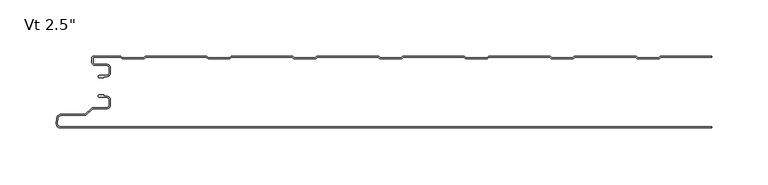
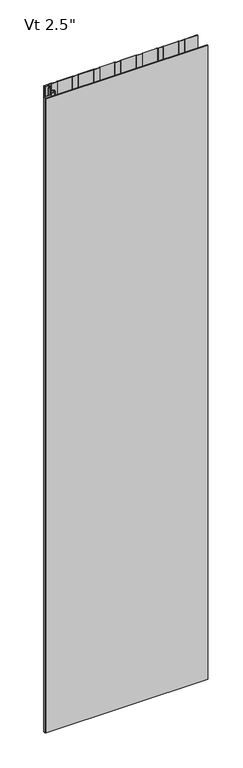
"""IFC4 building model written with IfcOpenShell, lengths in millimetres: plate geometry."""

from ifc_helpers import new_model, si_unit, point, frame, frame_2d, origin, origin_with_axes, place, context, project, spatial, polyline, circle_curve, trimmed, segment, composite_curve, outline, extrude, source, transform, mapped, element, save
from ifc_brep_helpers import plane_surface, cylinder_surface, revolved_surface, advanced_brep


def plate_b4da4b96(model_context):
    return source(origin(), model_context, "Body", "SolidModel", [
        advanced_brep(
        [(-270.768691, -17.0015159, 2400.0), (-271.7686883, -18.0015191, 2400.0), (-270.768691, -19.0015105, 2400.0), (-266.7684874, -19.0015105, 2400.0), (-266.7684874, -18.0015159, 2400.0), (-264.0762776, -18.0015159, 2400.0), (-260.7762819, -14.7015202, 2400.0), (-260.7762819, -10.301529, 2400.0), (-264.0762774, -7.0015335, 2400.0), (-274.4962563, -7.0015335, 2400.0), (-276.2662505, -5.2315393, 2400.0), (-276.2662505, -0.9999916, 2400.0), (-251.7659738, -0.9999916, 2400.0), (-250.3803312, -2.2002307, 2400.0), (-231.0051649, -2.2002307, 2400.0), (-229.619532, -1.0, 2400.0), (-175.5661166, -1.0, 2400.0), (-174.1804836, -2.2002307, 2400.0), (-154.8053173, -2.2002307, 2400.0), (-153.4196844, -1.0, 2400.0), (-99.366269, -1.0, 2400.0), (-97.980636, -2.2002307, 2400.0), (-78.6054697, -2.2002307, 2400.0), (-77.2198368, -1.0, 2400.0), (-23.1664214, -1.0, 2400.0), (-21.7807884, -2.2002307, 2400.0), (-2.4056221, -2.2002307, 2400.0), (-1.0199892, -1.0, 2400.0), (53.0334262, -1.0, 2400.0), (54.4190592, -2.2002307, 2400.0), (73.7942255, -2.2002307, 2400.0), (75.1798584, -1.0, 2400.0), (129.2332738, -1.0, 2400.0), (130.6189068, -2.2002307, 2400.0), (149.9940731, -2.2002307, 2400.0), (151.379706, -1.0, 2400.0), (205.4331214, -1.0, 2400.0), (206.8187544, -2.2002307, 2400.0), (226.1939207, -2.2002307, 2400.0), (227.5795536, -1.0, 2400.0), (272.7999998, -1.0, 2400.0), (272.7999998, 0.0, 2400.0), (227.7287048, 0.0, 2400.0), (226.8120879, -0.3417885, 2400.0), (225.8210403, -1.2002307, 2400.0), (207.1916348, -1.2002307, 2400.0), (206.2005872, -0.3417885, 2400.0), (205.2839703, 0.0, 2400.0), (151.5288572, 0.0, 2400.0), (150.6122403, -0.3417885, 2400.0), (149.6211927, -1.2002307, 2400.0), (130.9917872, -1.2002307, 2400.0), (130.0007396, -0.3417885, 2400.0), (129.0841227, 0.0, 2400.0), (75.3290096, 0.0, 2400.0), (74.4123927, -0.3417885, 2400.0), (73.4213451, -1.2002307, 2400.0), (54.7919396, -1.2002307, 2400.0), (53.800892, -0.3417885, 2400.0), (52.8842751, 0.0, 2400.0), (-0.870838, 0.0, 2400.0), (-1.7874549, -0.3417885, 2400.0), (-2.7785025, -1.2002307, 2400.0), (-21.407908, -1.2002307, 2400.0), (-22.3989556, -0.3417885, 2400.0), (-23.3155725, 0.0, 2400.0), (-77.0706856, 0.0, 2400.0), (-77.9873025, -0.3417885, 2400.0), (-78.9783501, -1.2002307, 2400.0), (-97.6077556, -1.2002307, 2400.0), (-98.5988032, -0.3417885, 2400.0), (-99.5154201, 0.0, 2400.0), (-153.2705332, 0.0, 2400.0), (-154.1871501, -0.3417885, 2400.0), (-155.1781977, -1.2002307, 2400.0), (-173.8076032, -1.2002307, 2400.0), (-174.7986508, -0.3417885, 2400.0), (-175.7152677, 0.0, 2400.0), (-229.4703808, 0.0, 2400.0), (-230.3869977, -0.3417885, 2400.0), (-231.3780453, -1.2002307, 2400.0), (-250.0074508, -1.2002307, 2400.0), (-250.9984984, -0.3417885, 2400.0), (-251.9152067, 0.0, 2400.0), (-275.8662543, 8.4e-06, 2400.0), (-277.2662505, -1.3999878, 2400.0), (-277.2662505, -5.2315393, 2400.0), (-274.4962563, -8.0015335, 2400.0), (-264.0762774, -8.0015335, 2400.0), (-261.7762819, -10.301529, 2400.0), (-261.7762819, -14.7015202, 2400.0), (-264.0762776, -17.0015159, 2400.0), (-270.768691, -17.0015159, 0.0), (-264.0762776, -17.0015159, 0.0), (-261.7762819, -14.7015202, 0.0), (-261.7762819, -10.301529, 0.0), (-264.0762774, -8.0015335, 0.0), (-274.4962563, -8.0015335, 0.0), (-277.2662505, -5.2315393, 0.0), (-277.2662505, -1.3999878, 0.0), (-275.8662543, 8.4e-06, 0.0), (-251.9151153, 8.4e-06, 0.0), (-250.9984984, -0.3417885, 0.0), (-250.0074508, -1.2002307, 0.0), (-231.3780453, -1.2002307, 0.0), (-230.3869977, -0.3417885, 0.0), (-229.4703808, 0.0, 0.0), (-175.7152677, 0.0, 0.0), (-174.7986508, -0.3417885, 0.0), (-173.8076032, -1.2002307, 0.0), (-155.1781977, -1.2002307, 0.0), (-154.1871501, -0.3417885, 0.0), (-153.2705332, 0.0, 0.0), (-99.5154201, 0.0, 0.0), (-98.5988032, -0.3417885, 0.0), (-97.6077556, -1.2002307, 0.0), (-78.9783501, -1.2002307, 0.0), (-77.9873025, -0.3417885, 0.0), (-77.0706856, 0.0, 0.0), (-23.3155725, 0.0, 0.0), (-22.3989556, -0.3417885, 0.0), (-21.407908, -1.2002307, 0.0), (-2.7785025, -1.2002307, 0.0), (-1.7874549, -0.3417885, 0.0), (-0.870838, 0.0, 0.0), (52.8842751, 0.0, 0.0), (53.800892, -0.3417885, 0.0), (54.7919396, -1.2002307, 0.0), (73.4213451, -1.2002307, 0.0), (74.4123927, -0.3417885, 0.0), (75.3290096, 0.0, 0.0), (129.0841227, 0.0, 0.0), (130.0007396, -0.3417885, 0.0), (130.9917872, -1.2002307, 0.0), (149.6211927, -1.2002307, 0.0), (150.6122403, -0.3417885, 0.0), (151.5288572, 0.0, 0.0), (205.2839703, 0.0, 0.0), (206.2005872, -0.3417885, 0.0), (207.1916348, -1.2002307, 0.0), (225.8210403, -1.2002307, 0.0), (226.8120879, -0.3417885, 0.0), (227.7287048, 0.0, 0.0), (272.7999998, 0.0, 0.0), (272.7999998, -1.0, 0.0), (227.5795536, -1.0, 0.0), (226.1939207, -2.2002307, 0.0), (206.8187544, -2.2002307, 0.0), (205.4331214, -1.0, 0.0), (151.379706, -1.0, 0.0), (149.9940731, -2.2002307, 0.0), (130.6189068, -2.2002307, 0.0), (129.2332738, -1.0, 0.0), (75.1798584, -1.0, 0.0), (73.7942255, -2.2002307, 0.0), (54.4190592, -2.2002307, 0.0), (53.0334262, -1.0, 0.0), (-1.0199892, -1.0, 0.0), (-2.4056221, -2.2002307, 0.0), (-21.7807884, -2.2002307, 0.0), (-23.1664214, -1.0, 0.0), (-77.2198368, -1.0, 0.0), (-78.6054697, -2.2002307, 0.0), (-97.980636, -2.2002307, 0.0), (-99.366269, -1.0, 0.0), (-153.4196844, -1.0, 0.0), (-154.8053173, -2.2002307, 0.0), (-174.1804836, -2.2002307, 0.0), (-175.5661166, -1.0, 0.0), (-229.619532, -1.0, 0.0), (-231.0051649, -2.2002307, 0.0), (-250.3803312, -2.2002307, 0.0), (-251.7659738, -0.9999916, 0.0), (-276.2662505, -0.9999916, 0.0), (-276.2662505, -5.2315393, 0.0), (-274.4962563, -7.0015335, 0.0), (-264.0762774, -7.0015335, 0.0), (-260.7762819, -10.301529, 0.0), (-260.7762819, -14.7015202, 0.0), (-264.0762776, -18.0015159, 0.0), (-266.7684874, -18.0015159, 0.0), (-266.7684874, -19.0015105, 0.0), (-270.768691, -19.0015105, 0.0), (-271.7686882, -18.0015192, 0.0)],
        [
            (0, 1, circle_curve(frame((-270.768691, -18.0015132, 2400.0), z_axis=(0.0, 0.0, 1.0), x_axis=(1.0, 0.0, 0.0)), 0.9999973)),
            (1, 2, circle_curve(frame((-270.768691, -18.0015133, 2400.0), z_axis=(0.0, 0.0, 1.0), x_axis=(1.0, 0.0, 0.0)), 0.9999972)),
            (2, 3),
            (3, 4),
            (4, 5),
            (5, 6, circle_curve(frame((-264.0762776, -14.7015202, 2400.0), z_axis=(0.0, 0.0, 1.0), x_axis=(1.0, 0.0, 0.0)), 3.2999957)),
            (6, 7),
            (7, 8, circle_curve(frame((-264.0762774, -10.301529, 2400.0), z_axis=(0.0, 0.0, 1.0), x_axis=(1.0, 0.0, 0.0)), 3.2999955)),
            (8, 9),
            (9, 10, circle_curve(frame((-274.4962563, -5.2315393, 2400.0), z_axis=(0.0, 0.0, -1.0), x_axis=(1.0, 0.0, 0.0)), 1.7699942)),
            (10, 11),
            (11, 12),
            (12, 13),
            (13, 14),
            (14, 15),
            (15, 16),
            (16, 17),
            (17, 18),
            (18, 19),
            (19, 20),
            (20, 21),
            (21, 22),
            (22, 23),
            (23, 24),
            (24, 25),
            (25, 26),
            (26, 27),
            (27, 28),
            (28, 29),
            (29, 30),
            (30, 31),
            (31, 32),
            (32, 33),
            (33, 34),
            (34, 35),
            (35, 36),
            (36, 37),
            (37, 38),
            (38, 39),
            (39, 40),
            (40, 41),
            (41, 42),
            (42, 43, circle_curve(frame((227.7287048, -1.3999972, 2400.0), z_axis=(0.0, 0.0, 1.0), x_axis=(1.0, 0.0, 0.0)), 1.3999972)),
            (43, 44),
            (44, 45),
            (45, 46),
            (46, 47, circle_curve(frame((205.2839703, -1.3999972, 2400.0), z_axis=(0.0, 0.0, 1.0), x_axis=(1.0, 0.0, 0.0)), 1.3999972)),
            (47, 48),
            (48, 49, circle_curve(frame((151.5288572, -1.3999972, 2400.0), z_axis=(0.0, 0.0, 1.0), x_axis=(1.0, 0.0, 0.0)), 1.3999972)),
            (49, 50),
            (50, 51),
            (51, 52),
            (52, 53, circle_curve(frame((129.0841227, -1.3999972, 2400.0), z_axis=(0.0, 0.0, 1.0), x_axis=(1.0, 0.0, 0.0)), 1.3999972)),
            (53, 54),
            (54, 55, circle_curve(frame((75.3290096, -1.3999972, 2400.0), z_axis=(0.0, 0.0, 1.0), x_axis=(1.0, 0.0, 0.0)), 1.3999972)),
            (55, 56),
            (56, 57),
            (57, 58),
            (58, 59, circle_curve(frame((52.8842751, -1.3999972, 2400.0), z_axis=(0.0, 0.0, 1.0), x_axis=(1.0, 0.0, 0.0)), 1.3999972)),
            (59, 60),
            (60, 61, circle_curve(frame((-0.870838, -1.3999972, 2400.0), z_axis=(0.0, 0.0, 1.0), x_axis=(1.0, 0.0, 0.0)), 1.3999972)),
            (61, 62),
            (62, 63),
            (63, 64),
            (64, 65, circle_curve(frame((-23.3155725, -1.3999972, 2400.0), z_axis=(0.0, 0.0, 1.0), x_axis=(1.0, 0.0, 0.0)), 1.3999972)),
            (65, 66),
            (66, 67, circle_curve(frame((-77.0706856, -1.3999972, 2400.0), z_axis=(0.0, 0.0, 1.0), x_axis=(1.0, 0.0, 0.0)), 1.3999972)),
            (67, 68),
            (68, 69),
            (69, 70),
            (70, 71, circle_curve(frame((-99.5154201, -1.3999972, 2400.0), z_axis=(0.0, 0.0, 1.0), x_axis=(1.0, 0.0, 0.0)), 1.3999972)),
            (71, 72),
            (72, 73, circle_curve(frame((-153.2705332, -1.3999972, 2400.0), z_axis=(0.0, 0.0, 1.0), x_axis=(1.0, 0.0, 0.0)), 1.3999972)),
            (73, 74),
            (74, 75),
            (75, 76),
            (76, 77, circle_curve(frame((-175.7152677, -1.3999972, 2400.0), z_axis=(0.0, 0.0, 1.0), x_axis=(1.0, 0.0, 0.0)), 1.3999972)),
            (77, 78),
            (78, 79, circle_curve(frame((-229.4703808, -1.3999972, 2400.0), z_axis=(0.0, 0.0, 1.0), x_axis=(1.0, 0.0, 0.0)), 1.3999972)),
            (79, 80),
            (80, 81),
            (81, 82),
            (82, 83, circle_curve(frame((-251.9151153, -1.3999972, 2400.0), z_axis=(0.0, 0.0, 1.0), x_axis=(1.0, 0.0, 0.0)), 1.3999972)),
            (83, 84),
            (84, 85, circle_curve(frame((-275.8662543, -1.3999878, 2400.0), z_axis=(0.0, 0.0, 1.0), x_axis=(1.0, 0.0, 0.0)), 1.3999962)),
            (85, 86),
            (86, 87, circle_curve(frame((-274.4962563, -5.2315393, 2400.0), z_axis=(0.0, 0.0, 1.0), x_axis=(1.0, 0.0, 0.0)), 2.7699942)),
            (87, 88),
            (88, 89, circle_curve(frame((-264.0762774, -10.301529, 2400.0), z_axis=(0.0, 0.0, -1.0), x_axis=(1.0, 0.0, 0.0)), 2.2999955)),
            (89, 90),
            (90, 91, circle_curve(frame((-264.0762776, -14.7015202, 2400.0), z_axis=(0.0, 0.0, -1.0), x_axis=(1.0, 0.0, 0.0)), 2.2999957)),
            (91, 0),
            (92, 93),
            (93, 94, circle_curve(frame((-264.0762776, -14.7015202, 0.0), z_axis=(0.0, 0.0, 1.0), x_axis=(1.0, 0.0, 0.0)), 2.2999957)),
            (94, 95),
            (95, 96, circle_curve(frame((-264.0762774, -10.301529, 0.0), z_axis=(0.0, 0.0, 1.0), x_axis=(1.0, 0.0, 0.0)), 2.2999955)),
            (96, 97),
            (97, 98, circle_curve(frame((-274.4962563, -5.2315393, 0.0), z_axis=(0.0, 0.0, -1.0), x_axis=(1.0, 0.0, 0.0)), 2.7699942)),
            (98, 99),
            (99, 100, circle_curve(frame((-275.8662543, -1.3999878, 0.0), z_axis=(0.0, 0.0, -1.0), x_axis=(1.0, 0.0, 0.0)), 1.3999962)),
            (100, 101),
            (101, 102, circle_curve(frame((-251.9151153, -1.3999972, 0.0), z_axis=(0.0, 0.0, -1.0), x_axis=(1.0, 0.0, 0.0)), 1.3999972)),
            (102, 103),
            (103, 104),
            (104, 105),
            (105, 106, circle_curve(frame((-229.4703808, -1.3999972, 0.0), z_axis=(0.0, 0.0, -1.0), x_axis=(1.0, 0.0, 0.0)), 1.3999972)),
            (106, 107),
            (107, 108, circle_curve(frame((-175.7152677, -1.3999972, 0.0), z_axis=(0.0, 0.0, -1.0), x_axis=(1.0, 0.0, 0.0)), 1.3999972)),
            (108, 109),
            (109, 110),
            (110, 111),
            (111, 112, circle_curve(frame((-153.2705332, -1.3999972, 0.0), z_axis=(0.0, 0.0, -1.0), x_axis=(1.0, 0.0, 0.0)), 1.3999972)),
            (112, 113),
            (113, 114, circle_curve(frame((-99.5154201, -1.3999972, 0.0), z_axis=(0.0, 0.0, -1.0), x_axis=(1.0, 0.0, 0.0)), 1.3999972)),
            (114, 115),
            (115, 116),
            (116, 117),
            (117, 118, circle_curve(frame((-77.0706856, -1.3999972, 0.0), z_axis=(0.0, 0.0, -1.0), x_axis=(1.0, 0.0, 0.0)), 1.3999972)),
            (118, 119),
            (119, 120, circle_curve(frame((-23.3155725, -1.3999972, 0.0), z_axis=(0.0, 0.0, -1.0), x_axis=(1.0, 0.0, 0.0)), 1.3999972)),
            (120, 121),
            (121, 122),
            (122, 123),
            (123, 124, circle_curve(frame((-0.870838, -1.3999972, 0.0), z_axis=(0.0, 0.0, -1.0), x_axis=(1.0, 0.0, 0.0)), 1.3999972)),
            (124, 125),
            (125, 126, circle_curve(frame((52.8842751, -1.3999972, 0.0), z_axis=(0.0, 0.0, -1.0), x_axis=(1.0, 0.0, 0.0)), 1.3999972)),
            (126, 127),
            (127, 128),
            (128, 129),
            (129, 130, circle_curve(frame((75.3290096, -1.3999972, 0.0), z_axis=(0.0, 0.0, -1.0), x_axis=(1.0, 0.0, 0.0)), 1.3999972)),
            (130, 131),
            (131, 132, circle_curve(frame((129.0841227, -1.3999972, 0.0), z_axis=(0.0, 0.0, -1.0), x_axis=(1.0, 0.0, 0.0)), 1.3999972)),
            (132, 133),
            (133, 134),
            (134, 135),
            (135, 136, circle_curve(frame((151.5288572, -1.3999972, 0.0), z_axis=(0.0, 0.0, -1.0), x_axis=(1.0, 0.0, 0.0)), 1.3999972)),
            (136, 137),
            (137, 138, circle_curve(frame((205.2839703, -1.3999972, 0.0), z_axis=(0.0, 0.0, -1.0), x_axis=(1.0, 0.0, 0.0)), 1.3999972)),
            (138, 139),
            (139, 140),
            (140, 141),
            (141, 142, circle_curve(frame((227.7287048, -1.3999972, 0.0), z_axis=(0.0, 0.0, -1.0), x_axis=(1.0, 0.0, 0.0)), 1.3999972)),
            (142, 143),
            (143, 144),
            (144, 145),
            (145, 146),
            (146, 147),
            (147, 148),
            (148, 149),
            (149, 150),
            (150, 151),
            (151, 152),
            (152, 153),
            (153, 154),
            (154, 155),
            (155, 156),
            (156, 157),
            (157, 158),
            (158, 159),
            (159, 160),
            (160, 161),
            (161, 162),
            (162, 163),
            (163, 164),
            (164, 165),
            (165, 166),
            (166, 167),
            (167, 168),
            (168, 169),
            (169, 170),
            (170, 171),
            (171, 172),
            (172, 173),
            (173, 174),
            (174, 175, circle_curve(frame((-274.4962563, -5.2315393, 0.0), z_axis=(0.0, 0.0, 1.0), x_axis=(1.0, 0.0, 0.0)), 1.7699942)),
            (175, 176),
            (176, 177, circle_curve(frame((-264.0762774, -10.301529, 0.0), z_axis=(0.0, 0.0, -1.0), x_axis=(1.0, 0.0, 0.0)), 3.2999955)),
            (177, 178),
            (178, 179, circle_curve(frame((-264.0762776, -14.7015202, 0.0), z_axis=(0.0, 0.0, -1.0), x_axis=(1.0, 0.0, 0.0)), 3.2999957)),
            (179, 180),
            (180, 181),
            (181, 182),
            (182, 183, circle_curve(frame((-270.768691, -18.0015133, 0.0), z_axis=(0.0, 0.0, -1.0), x_axis=(1.0, 0.0, 0.0)), 0.9999972)),
            (183, 92, circle_curve(frame((-270.768691, -18.0015132, 0.0), z_axis=(0.0, 0.0, -1.0), x_axis=(1.0, 0.0, 0.0)), 0.9999973)),
            (91, 93),
            (92, 0),
            (90, 94),
            (89, 95),
            (88, 96),
            (87, 97),
            (86, 98),
            (85, 99),
            (84, 100),
            (83, 101),
            (10, 174),
            (173, 11),
            (9, 175),
            (8, 176),
            (7, 177),
            (6, 178),
            (5, 179),
            (4, 180),
            (3, 181),
            (2, 182),
            (1, 183),
            (40, 144),
            (143, 41),
            (82, 102),
            (81, 103),
            (80, 104),
            (79, 105),
            (78, 106),
            (77, 107),
            (76, 108),
            (75, 109),
            (74, 110),
            (73, 111),
            (72, 112),
            (71, 113),
            (70, 114),
            (69, 115),
            (68, 116),
            (67, 117),
            (66, 118),
            (65, 119),
            (64, 120),
            (63, 121),
            (62, 122),
            (61, 123),
            (60, 124),
            (59, 125),
            (58, 126),
            (57, 127),
            (56, 128),
            (55, 129),
            (54, 130),
            (53, 131),
            (52, 132),
            (51, 133),
            (50, 134),
            (49, 135),
            (48, 136),
            (47, 137),
            (46, 138),
            (45, 139),
            (44, 140),
            (43, 141),
            (42, 142),
            (39, 145),
            (38, 146),
            (37, 147),
            (36, 148),
            (35, 149),
            (34, 150),
            (33, 151),
            (32, 152),
            (31, 153),
            (30, 154),
            (29, 155),
            (28, 156),
            (27, 157),
            (26, 158),
            (25, 159),
            (24, 160),
            (23, 161),
            (22, 162),
            (21, 163),
            (20, 164),
            (19, 165),
            (18, 166),
            (17, 167),
            (16, 168),
            (15, 169),
            (14, 170),
            (13, 171),
            (12, 172),
        ],
        [
            plane_surface(frame((184.4000002, 0.0, 2400.0), z_axis=(0.0, 0.0, 1.0), x_axis=(0.0, 1.0, 0.0))),
            plane_surface(frame((184.4000002, 0.0, 0.0), z_axis=(0.0, 0.0, -1.0), x_axis=(0.0, 1.0, 0.0))),
            plane_surface(frame((-270.768691, -17.0015159, 2400.0), z_axis=(0.0, 1.0, 0.0), x_axis=(0.0, 0.0, -1.0))),
            revolved_surface(polyline([(-261.7762819, -14.7015202, 0.0), (-261.7762819, -14.7015202, 2400.0)]), (-264.0762776, -14.7015202, 2400.0), (0.0, 0.0, -1.0)),
            plane_surface(frame((-261.7762819, -14.7015202, 2400.0), z_axis=(-1.0, 0.0, 0.0), x_axis=(0.0, 0.0, -1.0))),
            revolved_surface(polyline([(-261.77628189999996, -10.301529, 0.0), (-261.77628189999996, -10.301529, 2400.0)]), (-264.0762774, -10.301529, 2400.0), (0.0, 0.0, -1.0)),
            plane_surface(frame((-264.0762774, -8.0015335, 2400.0), z_axis=(0.0, -1.0, 0.0), x_axis=(0.0, 0.0, -1.0))),
            cylinder_surface(frame((-274.4962563, -5.2315393, 2400.0), z_axis=(0.0, 0.0, 1.0), x_axis=(1.0, 0.0, 0.0)), 2.7699942),
            plane_surface(frame((-277.2662505, -5.2315393, 2400.0), z_axis=(-1.0, 0.0, 0.0), x_axis=(0.0, 0.0, -1.0))),
            cylinder_surface(frame((-275.8662543, -1.3999878, 2400.0), z_axis=(0.0, 0.0, 1.0), x_axis=(1.0, 0.0, 0.0)), 1.3999962),
            plane_surface(frame((-275.8662543, 8.4e-06, 2400.0), z_axis=(0.0, 1.0, 0.0), x_axis=(0.0, 0.0, -1.0))),
            plane_surface(frame((-276.2662505, -0.9999916, 2400.0), z_axis=(1.0, 0.0, 0.0), x_axis=(0.0, 0.0, -1.0))),
            revolved_surface(polyline([(-272.72626210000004, -5.2315393, 0.0), (-272.72626210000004, -5.2315393, 2400.0)]), (-274.4962563, -5.2315393, 2400.0), (0.0, 0.0, -1.0)),
            plane_surface(frame((-274.4962563, -7.0015335, 2400.0), z_axis=(0.0, 1.0, 0.0), x_axis=(0.0, 0.0, -1.0))),
            cylinder_surface(frame((-264.0762774, -10.301529, 2400.0), z_axis=(0.0, 0.0, 1.0), x_axis=(1.0, 0.0, 0.0)), 3.2999955),
            plane_surface(frame((-260.7762819, -10.301529, 2400.0), z_axis=(1.0, 0.0, 0.0), x_axis=(0.0, 0.0, -1.0))),
            cylinder_surface(frame((-264.0762776, -14.7015202, 2400.0), z_axis=(0.0, 0.0, 1.0), x_axis=(1.0, 0.0, 0.0)), 3.2999957),
            plane_surface(frame((-264.0762776, -18.0015159, 2400.0), z_axis=(0.0, -1.0, 0.0), x_axis=(0.0, 0.0, -1.0))),
            plane_surface(frame((-266.7684874, -18.0015159, 2400.0), z_axis=(1.0, 0.0, 0.0), x_axis=(0.0, 0.0, -1.0))),
            plane_surface(frame((-266.7684874, -19.0015105, 2400.0), z_axis=(0.0, -1.0, 0.0), x_axis=(0.0, 0.0, -1.0))),
            cylinder_surface(frame((-270.768691, -18.0015133, 2400.0), z_axis=(0.0, 0.0, 1.0), x_axis=(1.0, 0.0, 0.0)), 0.9999972),
            cylinder_surface(frame((-270.768691, -18.0015132, 2400.0), z_axis=(0.0, 0.0, 1.0), x_axis=(1.0, 0.0, 0.0)), 0.9999973),
            plane_surface(frame((272.7999998, -73.5, 2400.0), z_axis=(1.0, 0.0, 0.0), x_axis=(0.0, 0.0, -1.0))),
            cylinder_surface(frame((-251.9151153, -1.3999972, 2400.0), z_axis=(0.0, 0.0, 1.0), x_axis=(1.0, 0.0, 0.0)), 1.3999972),
            plane_surface(frame((-250.9984984, -0.3417885, 2400.0), z_axis=(0.6547276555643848, 0.7558648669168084, 0.0), x_axis=(0.0, 0.0, -1.0))),
            plane_surface(frame((-240.6927481, -1.2002307, 2400.0), z_axis=(0.0, 1.0, 0.0), x_axis=(0.0, 0.0, -1.0))),
            plane_surface(frame((-231.3780453, -1.2002307, 2400.0), z_axis=(-0.6547276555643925, 0.7558648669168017, 0.0), x_axis=(0.0, 0.0, -1.0))),
            cylinder_surface(frame((-229.4703808, -1.3999972, 2400.0), z_axis=(0.0, 0.0, 1.0), x_axis=(1.0, 0.0, 0.0)), 1.3999972),
            plane_surface(frame((-229.4703808, 0.0, 2400.0), z_axis=(0.0, 1.0, 0.0), x_axis=(0.0, 0.0, -1.0))),
            cylinder_surface(frame((-175.7152677, -1.3999972, 2400.0), z_axis=(0.0, 0.0, 1.0), x_axis=(1.0, 0.0, 0.0)), 1.3999972),
            plane_surface(frame((-174.7986508, -0.3417885, 2400.0), z_axis=(0.6547276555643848, 0.7558648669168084, 0.0), x_axis=(0.0, 0.0, -1.0))),
            plane_surface(frame((-164.4929005, -1.2002307, 2400.0), z_axis=(0.0, 1.0, 0.0), x_axis=(0.0, 0.0, -1.0))),
            plane_surface(frame((-155.1781977, -1.2002307, 2400.0), z_axis=(-0.6547276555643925, 0.7558648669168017, 0.0), x_axis=(0.0, 0.0, -1.0))),
            cylinder_surface(frame((-153.2705332, -1.3999972, 2400.0), z_axis=(0.0, 0.0, 1.0), x_axis=(1.0, 0.0, 0.0)), 1.3999972),
            plane_surface(frame((-153.2705332, 0.0, 2400.0), z_axis=(0.0, 1.0, 0.0), x_axis=(0.0, 0.0, -1.0))),
            cylinder_surface(frame((-99.5154201, -1.3999972, 2400.0), z_axis=(0.0, 0.0, 1.0), x_axis=(1.0, 0.0, 0.0)), 1.3999972),
            plane_surface(frame((-98.5988032, -0.3417885, 2400.0), z_axis=(0.6547276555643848, 0.7558648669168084, 0.0), x_axis=(0.0, 0.0, -1.0))),
            plane_surface(frame((-88.2930529, -1.2002307, 2400.0), z_axis=(0.0, 1.0, 0.0), x_axis=(0.0, 0.0, -1.0))),
            plane_surface(frame((-78.9783501, -1.2002307, 2400.0), z_axis=(-0.6547276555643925, 0.7558648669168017, 0.0), x_axis=(0.0, 0.0, -1.0))),
            cylinder_surface(frame((-77.0706856, -1.3999972, 2400.0), z_axis=(0.0, 0.0, 1.0), x_axis=(1.0, 0.0, 0.0)), 1.3999972),
            plane_surface(frame((-77.0706856, 0.0, 2400.0), z_axis=(0.0, 1.0, 0.0), x_axis=(0.0, 0.0, -1.0))),
            cylinder_surface(frame((-23.3155725, -1.3999972, 2400.0), z_axis=(0.0, 0.0, 1.0), x_axis=(1.0, 0.0, 0.0)), 1.3999972),
            plane_surface(frame((-22.3989556, -0.3417885, 2400.0), z_axis=(0.6547276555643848, 0.7558648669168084, 0.0), x_axis=(0.0, 0.0, -1.0))),
            plane_surface(frame((-12.0932053, -1.2002307, 2400.0), z_axis=(0.0, 1.0, 0.0), x_axis=(0.0, 0.0, -1.0))),
            plane_surface(frame((-2.7785025, -1.2002307, 2400.0), z_axis=(-0.6547276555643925, 0.7558648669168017, 0.0), x_axis=(0.0, 0.0, -1.0))),
            cylinder_surface(frame((-0.870838, -1.3999972, 2400.0), z_axis=(0.0, 0.0, 1.0), x_axis=(1.0, 0.0, 0.0)), 1.3999972),
            plane_surface(frame((-0.870838, 0.0, 2400.0), z_axis=(0.0, 1.0, 0.0), x_axis=(0.0, 0.0, -1.0))),
            cylinder_surface(frame((52.8842751, -1.3999972, 2400.0), z_axis=(0.0, 0.0, 1.0), x_axis=(1.0, 0.0, 0.0)), 1.3999972),
            plane_surface(frame((53.800892, -0.3417885, 2400.0), z_axis=(0.6547276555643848, 0.7558648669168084, 0.0), x_axis=(0.0, 0.0, -1.0))),
            plane_surface(frame((64.1066423, -1.2002307, 2400.0), z_axis=(0.0, 1.0, 0.0), x_axis=(0.0, 0.0, -1.0))),
            plane_surface(frame((73.4213451, -1.2002307, 2400.0), z_axis=(-0.6547276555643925, 0.7558648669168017, 0.0), x_axis=(0.0, 0.0, -1.0))),
            cylinder_surface(frame((75.3290096, -1.3999972, 2400.0), z_axis=(0.0, 0.0, 1.0), x_axis=(1.0, 0.0, 0.0)), 1.3999972),
            plane_surface(frame((75.3290096, 0.0, 2400.0), z_axis=(0.0, 1.0, 0.0), x_axis=(0.0, 0.0, -1.0))),
            cylinder_surface(frame((129.0841227, -1.3999972, 2400.0), z_axis=(0.0, 0.0, 1.0), x_axis=(1.0, 0.0, 0.0)), 1.3999972),
            plane_surface(frame((130.0007396, -0.3417885, 2400.0), z_axis=(0.6547276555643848, 0.7558648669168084, 0.0), x_axis=(0.0, 0.0, -1.0))),
            plane_surface(frame((140.3064899, -1.2002307, 2400.0), z_axis=(0.0, 1.0, 0.0), x_axis=(0.0, 0.0, -1.0))),
            plane_surface(frame((149.6211927, -1.2002307, 2400.0), z_axis=(-0.6547276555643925, 0.7558648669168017, 0.0), x_axis=(0.0, 0.0, -1.0))),
            cylinder_surface(frame((151.5288572, -1.3999972, 2400.0), z_axis=(0.0, 0.0, 1.0), x_axis=(1.0, 0.0, 0.0)), 1.3999972),
            plane_surface(frame((151.5288572, 0.0, 2400.0), z_axis=(0.0, 1.0, 0.0), x_axis=(0.0, 0.0, -1.0))),
            cylinder_surface(frame((205.2839703, -1.3999972, 2400.0), z_axis=(0.0, 0.0, 1.0), x_axis=(1.0, 0.0, 0.0)), 1.3999972),
            plane_surface(frame((206.2005872, -0.3417885, 2400.0), z_axis=(0.6547276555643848, 0.7558648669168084, 0.0), x_axis=(0.0, 0.0, -1.0))),
            plane_surface(frame((216.5063375, -1.2002307, 2400.0), z_axis=(0.0, 1.0, 0.0), x_axis=(0.0, 0.0, -1.0))),
            plane_surface(frame((225.8210403, -1.2002307, 2400.0), z_axis=(-0.6547276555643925, 0.7558648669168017, 0.0), x_axis=(0.0, 0.0, -1.0))),
            cylinder_surface(frame((227.7287048, -1.3999972, 2400.0), z_axis=(0.0, 0.0, 1.0), x_axis=(1.0, 0.0, 0.0)), 1.3999972),
            plane_surface(frame((227.7287048, 0.0, 2400.0), z_axis=(0.0, 1.0, 0.0), x_axis=(0.0, 0.0, -1.0))),
            plane_surface(frame((281.632969, -1.0, 2400.0), z_axis=(0.0, -1.0, 0.0), x_axis=(0.0, 0.0, -1.0))),
            plane_surface(frame((227.5795536, -1.0, 2400.0), z_axis=(0.6547276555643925, -0.7558648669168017, 0.0), x_axis=(0.0, 0.0, -1.0))),
            plane_surface(frame((226.1939207, -2.2002307, 2400.0), z_axis=(0.0, -1.0, 0.0), x_axis=(0.0, 0.0, -1.0))),
            plane_surface(frame((206.8187544, -2.2002307, 2400.0), z_axis=(-0.6547276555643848, -0.7558648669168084, 0.0), x_axis=(0.0, 0.0, -1.0))),
            plane_surface(frame((205.4331214, -1.0, 2400.0), z_axis=(0.0, -1.0, 0.0), x_axis=(0.0, 0.0, -1.0))),
            plane_surface(frame((151.379706, -1.0, 2400.0), z_axis=(0.6547276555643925, -0.7558648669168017, 0.0), x_axis=(0.0, 0.0, -1.0))),
            plane_surface(frame((149.9940731, -2.2002307, 2400.0), z_axis=(0.0, -1.0, 0.0), x_axis=(0.0, 0.0, -1.0))),
            plane_surface(frame((130.6189068, -2.2002307, 2400.0), z_axis=(-0.6547276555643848, -0.7558648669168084, 0.0), x_axis=(0.0, 0.0, -1.0))),
            plane_surface(frame((129.2332738, -1.0, 2400.0), z_axis=(0.0, -1.0, 0.0), x_axis=(0.0, 0.0, -1.0))),
            plane_surface(frame((75.1798584, -1.0, 2400.0), z_axis=(0.6547276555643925, -0.7558648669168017, 0.0), x_axis=(0.0, 0.0, -1.0))),
            plane_surface(frame((73.7942255, -2.2002307, 2400.0), z_axis=(0.0, -1.0, 0.0), x_axis=(0.0, 0.0, -1.0))),
            plane_surface(frame((54.4190592, -2.2002307, 2400.0), z_axis=(-0.6547276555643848, -0.7558648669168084, 0.0), x_axis=(0.0, 0.0, -1.0))),
            plane_surface(frame((53.0334262, -1.0, 2400.0), z_axis=(0.0, -1.0, 0.0), x_axis=(0.0, 0.0, -1.0))),
            plane_surface(frame((-1.0199892, -1.0, 2400.0), z_axis=(0.6547276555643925, -0.7558648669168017, 0.0), x_axis=(0.0, 0.0, -1.0))),
            plane_surface(frame((-2.4056221, -2.2002307, 2400.0), z_axis=(0.0, -1.0, 0.0), x_axis=(0.0, 0.0, -1.0))),
            plane_surface(frame((-21.7807884, -2.2002307, 2400.0), z_axis=(-0.6547276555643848, -0.7558648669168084, 0.0), x_axis=(0.0, 0.0, -1.0))),
            plane_surface(frame((-23.1664214, -1.0, 2400.0), z_axis=(0.0, -1.0, 0.0), x_axis=(0.0, 0.0, -1.0))),
            plane_surface(frame((-77.2198368, -1.0, 2400.0), z_axis=(0.6547276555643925, -0.7558648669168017, 0.0), x_axis=(0.0, 0.0, -1.0))),
            plane_surface(frame((-78.6054697, -2.2002307, 2400.0), z_axis=(0.0, -1.0, 0.0), x_axis=(0.0, 0.0, -1.0))),
            plane_surface(frame((-97.980636, -2.2002307, 2400.0), z_axis=(-0.6547276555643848, -0.7558648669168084, 0.0), x_axis=(0.0, 0.0, -1.0))),
            plane_surface(frame((-99.366269, -1.0, 2400.0), z_axis=(0.0, -1.0, 0.0), x_axis=(0.0, 0.0, -1.0))),
            plane_surface(frame((-153.4196844, -1.0, 2400.0), z_axis=(0.6547276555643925, -0.7558648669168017, 0.0), x_axis=(0.0, 0.0, -1.0))),
            plane_surface(frame((-154.8053173, -2.2002307, 2400.0), z_axis=(0.0, -1.0, 0.0), x_axis=(0.0, 0.0, -1.0))),
            plane_surface(frame((-174.1804836, -2.2002307, 2400.0), z_axis=(-0.6547276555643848, -0.7558648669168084, 0.0), x_axis=(0.0, 0.0, -1.0))),
            plane_surface(frame((-175.5661166, -1.0, 2400.0), z_axis=(0.0, -1.0, 0.0), x_axis=(0.0, 0.0, -1.0))),
            plane_surface(frame((-229.619532, -1.0, 2400.0), z_axis=(0.6547276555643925, -0.7558648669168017, 0.0), x_axis=(0.0, 0.0, -1.0))),
            plane_surface(frame((-231.0051649, -2.2002307, 2400.0), z_axis=(0.0, -1.0, 0.0), x_axis=(0.0, 0.0, -1.0))),
            plane_surface(frame((-250.3803312, -2.2002307, 2400.0), z_axis=(-0.6547276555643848, -0.7558648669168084, 0.0), x_axis=(0.0, 0.0, -1.0))),
            plane_surface(frame((-251.7659738, -0.9999916, 2400.0), z_axis=(0.0, -1.0, 0.0), x_axis=(0.0, 0.0, -1.0))),
        ],
        [
            (0, [[1, 2, 3, 4, 5, 6, 7, 8, 9, 10, 11, 12, 13, 14, 15, 16, 17, 18, 19, 20, 21, 22, 23, 24, 25, 26, 27, 28, 29, 30, 31, 32, 33, 34, 35, 36, 37, 38, 39, 40, 41, 42, 43, 44, 45, 46, 47, 48, 49, 50, 51, 52, 53, 54, 55, 56, 57, 58, 59, 60, 61, 62, 63, 64, 65, 66, 67, 68, 69, 70, 71, 72, 73, 74, 75, 76, 77, 78, 79, 80, 81, 82, 83, 84, 85, 86, 87, 88, 89, 90, 91, 92]]),
            (1, [[93, 94, 95, 96, 97, 98, 99, 100, 101, 102, 103, 104, 105, 106, 107, 108, 109, 110, 111, 112, 113, 114, 115, 116, 117, 118, 119, 120, 121, 122, 123, 124, 125, 126, 127, 128, 129, 130, 131, 132, 133, 134, 135, 136, 137, 138, 139, 140, 141, 142, 143, 144, 145, 146, 147, 148, 149, 150, 151, 152, 153, 154, 155, 156, 157, 158, 159, 160, 161, 162, 163, 164, 165, 166, 167, 168, 169, 170, 171, 172, 173, 174, 175, 176, 177, 178, 179, 180, 181, 182, 183, 184]]),
            (2, [[185, -93, 186, -92]]),
            (3, [[187, -94, -185, -91]]),
            (4, [[188, -95, -187, -90]]),
            (5, [[189, -96, -188, -89]]),
            (6, [[190, -97, -189, -88]]),
            (7, [[191, -98, -190, -87]]),
            (8, [[192, -99, -191, -86]]),
            (9, [[193, -100, -192, -85]]),
            (10, [[194, -101, -193, -84]]),
            (11, [[195, -174, 196, -11]]),
            (12, [[197, -175, -195, -10]]),
            (13, [[198, -176, -197, -9]]),
            (14, [[199, -177, -198, -8]]),
            (15, [[200, -178, -199, -7]]),
            (16, [[201, -179, -200, -6]]),
            (17, [[202, -180, -201, -5]]),
            (18, [[203, -181, -202, -4]]),
            (19, [[204, -182, -203, -3]]),
            (20, [[205, -183, -204, -2]]),
            (21, [[-186, -184, -205, -1]]),
            (22, [[206, -144, 207, -41]]),
            (23, [[208, -102, -194, -83]]),
            (24, [[209, -103, -208, -82]]),
            (25, [[210, -104, -209, -81]]),
            (26, [[211, -105, -210, -80]]),
            (27, [[212, -106, -211, -79]]),
            (28, [[213, -107, -212, -78]]),
            (29, [[214, -108, -213, -77]]),
            (30, [[215, -109, -214, -76]]),
            (31, [[216, -110, -215, -75]]),
            (32, [[217, -111, -216, -74]]),
            (33, [[218, -112, -217, -73]]),
            (34, [[219, -113, -218, -72]]),
            (35, [[220, -114, -219, -71]]),
            (36, [[221, -115, -220, -70]]),
            (37, [[222, -116, -221, -69]]),
            (38, [[223, -117, -222, -68]]),
            (39, [[224, -118, -223, -67]]),
            (40, [[225, -119, -224, -66]]),
            (41, [[226, -120, -225, -65]]),
            (42, [[227, -121, -226, -64]]),
            (43, [[228, -122, -227, -63]]),
            (44, [[229, -123, -228, -62]]),
            (45, [[230, -124, -229, -61]]),
            (46, [[231, -125, -230, -60]]),
            (47, [[232, -126, -231, -59]]),
            (48, [[233, -127, -232, -58]]),
            (49, [[234, -128, -233, -57]]),
            (50, [[235, -129, -234, -56]]),
            (51, [[236, -130, -235, -55]]),
            (52, [[237, -131, -236, -54]]),
            (53, [[238, -132, -237, -53]]),
            (54, [[239, -133, -238, -52]]),
            (55, [[240, -134, -239, -51]]),
            (56, [[241, -135, -240, -50]]),
            (57, [[242, -136, -241, -49]]),
            (58, [[243, -137, -242, -48]]),
            (59, [[244, -138, -243, -47]]),
            (60, [[245, -139, -244, -46]]),
            (61, [[246, -140, -245, -45]]),
            (62, [[247, -141, -246, -44]]),
            (63, [[248, -142, -247, -43]]),
            (64, [[-42, -207, -143, -248]]),
            (65, [[-145, -206, -40, 249]]),
            (66, [[250, -146, -249, -39]]),
            (67, [[251, -147, -250, -38]]),
            (68, [[252, -148, -251, -37]]),
            (69, [[253, -149, -252, -36]]),
            (70, [[254, -150, -253, -35]]),
            (71, [[255, -151, -254, -34]]),
            (72, [[256, -152, -255, -33]]),
            (73, [[257, -153, -256, -32]]),
            (74, [[258, -154, -257, -31]]),
            (75, [[259, -155, -258, -30]]),
            (76, [[260, -156, -259, -29]]),
            (77, [[261, -157, -260, -28]]),
            (78, [[262, -158, -261, -27]]),
            (79, [[263, -159, -262, -26]]),
            (80, [[264, -160, -263, -25]]),
            (81, [[265, -161, -264, -24]]),
            (82, [[266, -162, -265, -23]]),
            (83, [[267, -163, -266, -22]]),
            (84, [[268, -164, -267, -21]]),
            (85, [[269, -165, -268, -20]]),
            (86, [[270, -166, -269, -19]]),
            (87, [[271, -167, -270, -18]]),
            (88, [[272, -168, -271, -17]]),
            (89, [[273, -169, -272, -16]]),
            (90, [[274, -170, -273, -15]]),
            (91, [[275, -171, -274, -14]]),
            (92, [[276, -172, -275, -13]]),
            (93, [[-196, -173, -276, -12]]),
        ],
    ),
        extrude(outline(composite_curve([segment(polyline([(-308.808759, -59.6184578), (-308.3690674, -54.5944437)]), True, "CONTINUOUS"), segment(trimmed(circle_curve(frame_2d((-304.7198391, -55.2052448)), 3.6999926), [point((-308.3690674, -54.5944437))], [point((-304.7198391, -51.5052522))], False, "CARTESIAN"), True, "CONTINUOUS"), segment(polyline([(-304.7198391, -51.5052522), (-283.5773995, -51.5052522)]), True, "CONTINUOUS"), segment(trimmed(circle_curve(frame_2d((-283.5773995, -50.2052548)), 1.2999974), [point((-283.5773995, -51.5052522))], [point((-282.6581626, -51.1244918))], True, "CARTESIAN"), True, "CONTINUOUS"), segment(polyline([(-282.6581626, -51.1244918), (-277.8297451, -46.2960743)]), True, "CONTINUOUS"), segment(trimmed(circle_curve(frame_2d((-275.9205606, -48.2052588)), 2.6999946), [point((-277.8297451, -46.2960743))], [point((-275.9205606, -45.5052642))], False, "CARTESIAN"), True, "CONTINUOUS"), segment(polyline([(-275.9205606, -45.5052642), (-264.1096715, -45.5052642)]), True, "CONTINUOUS"), segment(trimmed(circle_curve(frame_2d((-264.1096715, -43.1552689)), 2.3499953), [point((-264.1096715, -45.5052642))], [point((-261.7596762, -43.1552689))], True, "CARTESIAN"), True, "CONTINUOUS"), segment(polyline([(-261.7596762, -43.1552689), (-261.7596762, -38.7552777)]), True, "CONTINUOUS"), segment(trimmed(circle_curve(frame_2d((-264.1096715, -38.7552777)), 2.3499953), [point((-261.7596762, -38.7552777))], [point((-264.1096715, -36.4052824))], True, "CARTESIAN"), True, "CONTINUOUS"), segment(polyline([(-264.1096715, -36.4052824), (-270.6289777, -36.4052824)]), True, "CONTINUOUS"), segment(trimmed(circle_curve(frame_2d((-270.5686906, -35.2068002)), 1.1999976), [point((-270.6289777, -36.4052824))], [point((-271.7683, -35.1762782))], False, "CARTESIAN"), True, "CONTINUOUS"), segment(trimmed(circle_curve(frame_2d((-270.5686906, -35.2068002)), 1.1999976), [point((-271.7683, -35.1762782))], [point((-270.567176, -34.0068035))], False, "CARTESIAN"), True, "CONTINUOUS"), segment(polyline([(-270.567176, -34.0068035), (-266.8087826, -34.0068035), (-266.8087826, -35.4052824), (-264.1096715, -35.4052824)]), True, "CONTINUOUS"), segment(trimmed(circle_curve(frame_2d((-264.1096715, -38.7552777)), 3.3499953), [point((-264.1096715, -35.4052824))], [point((-260.7596762, -38.7552777))], False, "CARTESIAN"), True, "CONTINUOUS"), segment(polyline([(-260.7596762, -38.7552777), (-260.7596762, -43.1552689)]), True, "CONTINUOUS"), segment(trimmed(circle_curve(frame_2d((-264.1096715, -43.1552689)), 3.3499953), [point((-260.7596762, -43.1552689))], [point((-264.1096715, -46.5052642))], False, "CARTESIAN"), True, "CONTINUOUS"), segment(polyline([(-264.1096715, -46.5052642), (-275.9205606, -46.5052642)]), True, "CONTINUOUS"), segment(trimmed(circle_curve(frame_2d((-275.9205606, -48.2052588)), 1.6999946), [point((-275.9205606, -46.5052642))], [point((-277.1226383, -47.0031811))], True, "CARTESIAN"), True, "CONTINUOUS"), segment(polyline([(-277.1226383, -47.0031811), (-282.6247094, -52.5052522), (-304.7198391, -52.5052522)]), True, "CONTINUOUS"), segment(trimmed(circle_curve(frame_2d((-304.7198391, -55.2052448)), 2.6999926), [point((-304.7198391, -52.5052522))], [point((-307.3765707, -54.7238542))], True, "CARTESIAN"), True, "CONTINUOUS"), segment(polyline([(-307.3765707, -54.7238542), (-307.8125697, -59.7056751)]), True, "CONTINUOUS"), segment(trimmed(circle_curve(frame_2d((-305.2521175, -59.9297607)), 2.5702393), [point((-307.8125697, -59.7056751))], [point((-305.3094458, -62.4993606))], True, "CARTESIAN"), True, "CONTINUOUS"), segment(polyline([(-305.3094458, -62.4993606), (272.7999998, -62.4993606), (272.7999998, -63.4995979), (-305.2521124, -63.4999675)]), True, "CONTINUOUS"), segment(trimmed(circle_curve(frame_2d((-305.2521147, -59.9297282)), 3.5702393), [point((-305.2521124, -63.4999675))], [point((-308.808759, -59.6184578))], False, "CARTESIAN"), True, "CONTINUOUS")], self_intersect=False)), origin_with_axes(), (0.0, 0.0, 1.0), 2400.0),
    ])


if __name__ == "__main__":
    model = new_model("IFC4")
    model_context = context("Model", 3, world=origin())
    ifc_project = project(units=[si_unit("LENGTHUNIT", "METRE", prefix="MILLI")], contexts=[model_context])
    site = spatial("IfcSite", under=ifc_project)
    building = spatial("IfcBuilding", under=site)
    placement = place(None, origin())
    plate_shape = plate_b4da4b96(model_context)
    element("IfcPlate", 1, ObjectType="KIP-36-Karrier-KP-R19-CP-Vt-FL3-8in_SL : Vt 2.5\"", at=placement, inside=building, context=model_context, shape_type="MappedRepresentation", body=[
        mapped(plate_shape, transform((0.0, 0.0, 0.0), x_axis=(1.0, 0.0, 0.0), y_axis=(0.0, 1.0, 0.0), z_axis=(0.0, 0.0, 1.0))),
    ])
    save(model, "model.ifc")
